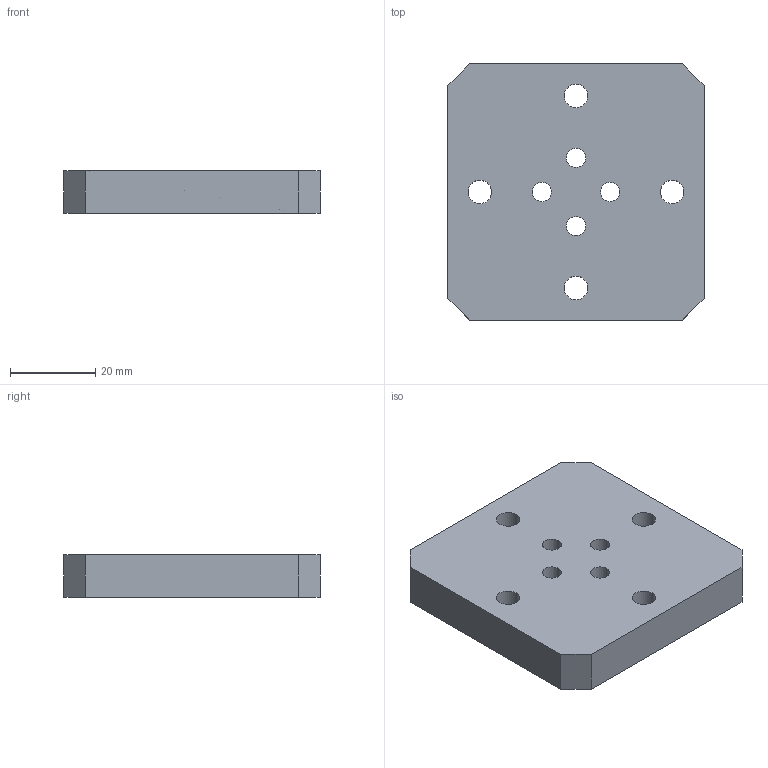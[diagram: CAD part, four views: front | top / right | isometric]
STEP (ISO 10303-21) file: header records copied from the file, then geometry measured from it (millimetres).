
FILE_DESCRIPTION(('CATIA V5 STEP Exchange'),'2;1');
FILE_NAME('D:\姚明阳\速降阀压支撑圈工装2\GZ24.01_V1.stp','2021-03-14T07:46:32+00:00',('none'),('none'),'CATIA Version 5 Release 21 GA (IN-10)','CATIA V5 STEP AP214','none');
FILE_SCHEMA(('AUTOMOTIVE_DESIGN { 1 0 10303 214 1 1 1 1 }'));
Length unit declared in the file: millimetre
Products named in the file (1): dizuo
Bounding box: 60 x 60 x 10 mm (x, y, z)
Volume: 33226.3 mm3; surface area: 10542.1 mm2
Topology: 1 solids, 1 shells, 38 faces, 96 edges, 64 vertices
Faces by surface type: cylinder 24, plane 14
Entity records: 1099 total; most frequent: ORIENTED_EDGE 192, CARTESIAN_POINT 184, DIRECTION 142, EDGE_CURVE 96, AXIS2_PLACEMENT_3D 72, VERTEX_POINT 64, EDGE_LOOP 58, VECTOR 48
